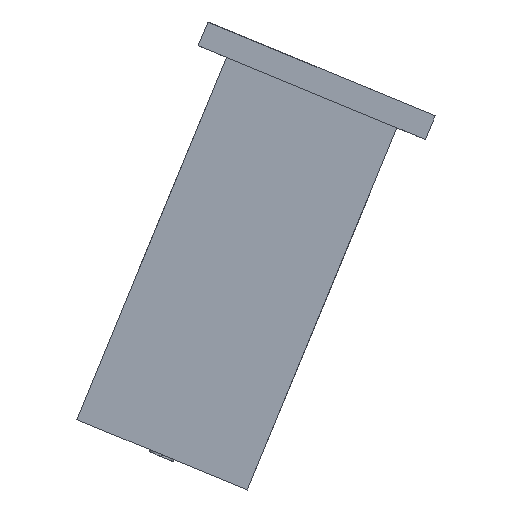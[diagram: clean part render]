
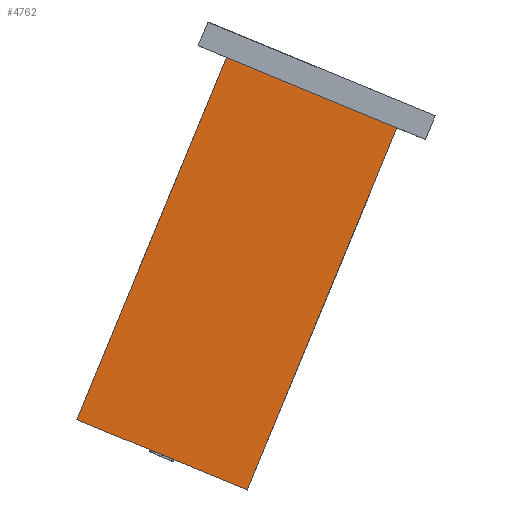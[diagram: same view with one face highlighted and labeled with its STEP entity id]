
A CAD part, left-side view. The second image highlights one B-rep face of the part: STEP entity #4762.
In plain terms, the highlighted planar face has unit normal (-1, 0, 0) as drawn and (0, 0, -1) by its records, which use the part's own axes.
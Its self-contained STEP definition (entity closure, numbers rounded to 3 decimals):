
#1195 = ORIENTED_EDGE ( 'NONE', *, *, #22123, .T. ) ;
#1380 = ORIENTED_EDGE ( 'NONE', *, *, #19109, .F. ) ;
#1386 = CARTESIAN_POINT ( 'NONE',  ( 0., 585., -385. ) ) ;
#2566 = CARTESIAN_POINT ( 'NONE',  ( 180., -180., -385. ) ) ;
#3661 = LINE ( 'NONE', #9741, #13753 ) ;
#3824 = VECTOR ( 'NONE', #11670, 1000. ) ;
#4762 = ADVANCED_FACE ( 'NONE', ( #36923 ), #39593, .T. ) ;
#5603 = CARTESIAN_POINT ( 'NONE',  ( 180., 0., -385. ) ) ;
#6058 = CARTESIAN_POINT ( 'NONE',  ( 0., 0., -385. ) ) ;
#6309 = DIRECTION ( 'NONE',  ( -1., 0., 0. ) ) ;
#7096 = EDGE_CURVE ( 'NONE', #34183, #18535, #14620, .T. ) ;
#9741 = CARTESIAN_POINT ( 'NONE',  ( 0., -180., -385. ) ) ;
#10406 = CARTESIAN_POINT ( 'NONE',  ( 180., 585., -385. ) ) ;
#10777 = ORIENTED_EDGE ( 'NONE', *, *, #7096, .F. ) ;
#11670 = DIRECTION ( 'NONE',  ( 0., 1., 0. ) ) ;
#13753 = VECTOR ( 'NONE', #37077, 1000. ) ;
#14298 = EDGE_LOOP ( 'NONE', ( #27908, #1195, #10777, #1380 ) ) ;
#14620 = LINE ( 'NONE', #1386, #30049 ) ;
#15714 = CARTESIAN_POINT ( 'NONE',  ( -180., 0., -385. ) ) ;
#18535 = VERTEX_POINT ( 'NONE', #30128 ) ;
#18707 = VECTOR ( 'NONE', #27385, 1000. ) ;
#19109 = EDGE_CURVE ( 'NONE', #32988, #34183, #39930, .T. ) ;
#19710 = DIRECTION ( 'NONE',  ( -1., 0., 0. ) ) ;
#22123 = EDGE_CURVE ( 'NONE', #33993, #18535, #36588, .T. ) ;
#23049 = EDGE_CURVE ( 'NONE', #32988, #33993, #3661, .T. ) ;
#24815 = CARTESIAN_POINT ( 'NONE',  ( -180., -180., -385. ) ) ;
#27385 = DIRECTION ( 'NONE',  ( 0., 1., 0. ) ) ;
#27573 = DIRECTION ( 'NONE',  ( 0., 0., -1. ) ) ;
#27908 = ORIENTED_EDGE ( 'NONE', *, *, #23049, .T. ) ;
#30049 = VECTOR ( 'NONE', #19710, 1000. ) ;
#30128 = CARTESIAN_POINT ( 'NONE',  ( -180., 585., -385. ) ) ;
#32988 = VERTEX_POINT ( 'NONE', #2566 ) ;
#33993 = VERTEX_POINT ( 'NONE', #24815 ) ;
#34183 = VERTEX_POINT ( 'NONE', #10406 ) ;
#35504 = AXIS2_PLACEMENT_3D ( 'NONE', #6058, #27573, #6309 ) ;
#36588 = LINE ( 'NONE', #15714, #3824 ) ;
#36923 = FACE_OUTER_BOUND ( 'NONE', #14298, .T. ) ;
#37077 = DIRECTION ( 'NONE',  ( -1., 0., 0. ) ) ;
#39593 = PLANE ( 'NONE',  #35504 ) ;
#39930 = LINE ( 'NONE', #5603, #18707 ) ;
